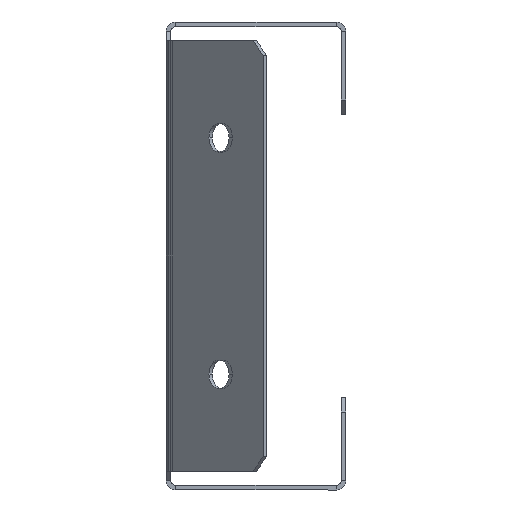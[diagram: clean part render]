
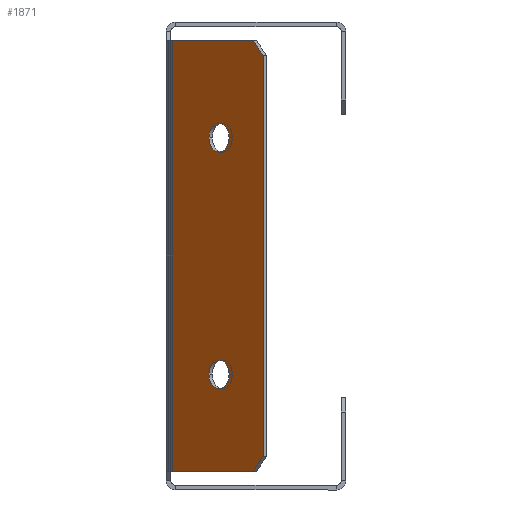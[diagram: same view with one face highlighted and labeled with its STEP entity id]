
A CAD part, left-side view. The second image highlights one B-rep face of the part: STEP entity #1871.
In plain terms, the highlighted planar face has unit normal (-0.707, 0.707, 0).
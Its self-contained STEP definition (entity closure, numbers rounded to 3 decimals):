
#15 = CARTESIAN_POINT ( 'NONE',  ( -263.879, -9.051, 25. ) ) ;
#38 = CARTESIAN_POINT ( 'NONE',  ( -255.121, -0.293, -45.5 ) ) ;
#93 = DIRECTION ( 'NONE',  ( -0.707, -0.707, 0. ) ) ;
#98 = ORIENTED_EDGE ( 'NONE', *, *, #2472, .F. ) ;
#134 = CARTESIAN_POINT ( 'NONE',  ( -263.879, -9.051, -25. ) ) ;
#153 = EDGE_CURVE ( 'NONE', #706, #1280, #590, .T. ) ;
#206 = VERTEX_POINT ( 'NONE', #856 ) ;
#220 = CARTESIAN_POINT ( 'NONE',  ( -255.414, -0.586, 45.5 ) ) ;
#221 = DIRECTION ( 'NONE',  ( 0., 0., -1. ) ) ;
#282 = ORIENTED_EDGE ( 'NONE', *, *, #769, .T. ) ;
#323 = EDGE_CURVE ( 'NONE', #206, #1034, #2785, .T. ) ;
#368 = CARTESIAN_POINT ( 'NONE',  ( -268.122, -13.294, -25. ) ) ;
#412 = VERTEX_POINT ( 'NONE', #15 ) ;
#427 = ORIENTED_EDGE ( 'NONE', *, *, #3005, .F. ) ;
#429 = CARTESIAN_POINT ( 'NONE',  ( -273.213, -18.385, -45.5 ) ) ;
#451 = PLANE ( 'NONE',  #563 ) ;
#481 = LINE ( 'NONE', #2005, #643 ) ;
#563 = AXIS2_PLACEMENT_3D ( 'NONE', #1767, #991, #2800 ) ;
#590 = LINE ( 'NONE', #38, #1710 ) ;
#639 = CARTESIAN_POINT ( 'NONE',  ( -273.213, -18.385, 45.5 ) ) ;
#643 = VECTOR ( 'NONE', #1246, 1000. ) ;
#655 = DIRECTION ( 'NONE',  ( -0.707, -0.707, 0. ) ) ;
#690 = VECTOR ( 'NONE', #1050, 1000. ) ;
#693 = FACE_BOUND ( 'NONE', #1749, .T. ) ;
#694 = CIRCLE ( 'NONE', #2836, 3. ) ;
#706 = VERTEX_POINT ( 'NONE', #429 ) ;
#739 = DIRECTION ( 'NONE',  ( -0.707, -0.707, 0. ) ) ;
#769 = EDGE_CURVE ( 'NONE', #206, #2186, #2290, .T. ) ;
#790 = VECTOR ( 'NONE', #221, 1000. ) ;
#826 = VECTOR ( 'NONE', #924, 1000. ) ;
#856 = CARTESIAN_POINT ( 'NONE',  ( -275.335, -20.506, 42.5 ) ) ;
#880 = VERTEX_POINT ( 'NONE', #368 ) ;
#898 = CARTESIAN_POINT ( 'NONE',  ( -266.001, -11.172, -25. ) ) ;
#920 = EDGE_CURVE ( 'NONE', #3182, #880, #694, .T. ) ;
#924 = DIRECTION ( 'NONE',  ( 0., 0., -1. ) ) ;
#942 = DIRECTION ( 'NONE',  ( -0.707, 0.707, 0. ) ) ;
#988 = CARTESIAN_POINT ( 'NONE',  ( -216.504, 38.324, 125.699 ) ) ;
#991 = DIRECTION ( 'NONE',  ( -0.707, 0.707, 0. ) ) ;
#1034 = VERTEX_POINT ( 'NONE', #2927 ) ;
#1050 = DIRECTION ( 'NONE',  ( 0.5, 0.5, 0.707 ) ) ;
#1117 = EDGE_CURVE ( 'NONE', #2819, #412, #2688, .T. ) ;
#1123 = DIRECTION ( 'NONE',  ( -0.707, -0.707, 0. ) ) ;
#1135 = CIRCLE ( 'NONE', #3042, 3. ) ;
#1170 = ORIENTED_EDGE ( 'NONE', *, *, #920, .F. ) ;
#1176 = EDGE_LOOP ( 'NONE', ( #1763, #98 ) ) ;
#1246 = DIRECTION ( 'NONE',  ( -0.5, -0.5, 0.707 ) ) ;
#1280 = VERTEX_POINT ( 'NONE', #2445 ) ;
#1428 = CARTESIAN_POINT ( 'NONE',  ( -266.001, -11.172, 25. ) ) ;
#1449 = CIRCLE ( 'NONE', #1893, 3. ) ;
#1536 = EDGE_CURVE ( 'NONE', #706, #1034, #481, .T. ) ;
#1553 = DIRECTION ( 'NONE',  ( 0.707, 0.707, 0. ) ) ;
#1584 = ORIENTED_EDGE ( 'NONE', *, *, #1536, .T. ) ;
#1641 = VECTOR ( 'NONE', #1123, 1000. ) ;
#1707 = ORIENTED_EDGE ( 'NONE', *, *, #2711, .T. ) ;
#1710 = VECTOR ( 'NONE', #1553, 1000. ) ;
#1749 = EDGE_LOOP ( 'NONE', ( #3078, #1170 ) ) ;
#1761 = EDGE_CURVE ( 'NONE', #880, #3182, #1449, .T. ) ;
#1763 = ORIENTED_EDGE ( 'NONE', *, *, #1117, .F. ) ;
#1767 = CARTESIAN_POINT ( 'NONE',  ( -127.621, 127.207, 0. ) ) ;
#1776 = ORIENTED_EDGE ( 'NONE', *, *, #323, .F. ) ;
#1871 = ADVANCED_FACE ( 'NONE', ( #3314, #693, #2787 ), #451, .T. ) ;
#1893 = AXIS2_PLACEMENT_3D ( 'NONE', #898, #1936, #93 ) ;
#1901 = CARTESIAN_POINT ( 'NONE',  ( -275.335, -20.506, 45.5 ) ) ;
#1936 = DIRECTION ( 'NONE',  ( -0.707, 0.707, 0. ) ) ;
#2005 = CARTESIAN_POINT ( 'NONE',  ( -216.504, 38.324, -125.699 ) ) ;
#2112 = LINE ( 'NONE', #1901, #1641 ) ;
#2169 = DIRECTION ( 'NONE',  ( -0.707, 0.707, 0. ) ) ;
#2186 = VERTEX_POINT ( 'NONE', #639 ) ;
#2201 = LINE ( 'NONE', #2713, #826 ) ;
#2290 = LINE ( 'NONE', #988, #690 ) ;
#2392 = VERTEX_POINT ( 'NONE', #220 ) ;
#2396 = DIRECTION ( 'NONE',  ( -0.707, -0.707, 0. ) ) ;
#2445 = CARTESIAN_POINT ( 'NONE',  ( -255.414, -0.586, -45.5 ) ) ;
#2472 = EDGE_CURVE ( 'NONE', #412, #2819, #1135, .T. ) ;
#2528 = AXIS2_PLACEMENT_3D ( 'NONE', #1428, #942, #655 ) ;
#2663 = ORIENTED_EDGE ( 'NONE', *, *, #153, .F. ) ;
#2688 = CIRCLE ( 'NONE', #2528, 3. ) ;
#2711 = EDGE_CURVE ( 'NONE', #2392, #1280, #2201, .T. ) ;
#2713 = CARTESIAN_POINT ( 'NONE',  ( -255.414, -0.586, 0. ) ) ;
#2785 = LINE ( 'NONE', #3311, #790 ) ;
#2787 = FACE_OUTER_BOUND ( 'NONE', #3051, .T. ) ;
#2800 = DIRECTION ( 'NONE',  ( -0.707, -0.707, 0. ) ) ;
#2819 = VERTEX_POINT ( 'NONE', #3305 ) ;
#2821 = DIRECTION ( 'NONE',  ( -0.707, 0.707, 0. ) ) ;
#2836 = AXIS2_PLACEMENT_3D ( 'NONE', #2946, #2169, #2396 ) ;
#2927 = CARTESIAN_POINT ( 'NONE',  ( -275.335, -20.506, -42.5 ) ) ;
#2946 = CARTESIAN_POINT ( 'NONE',  ( -266.001, -11.172, -25. ) ) ;
#3005 = EDGE_CURVE ( 'NONE', #2392, #2186, #2112, .T. ) ;
#3042 = AXIS2_PLACEMENT_3D ( 'NONE', #3052, #2821, #739 ) ;
#3051 = EDGE_LOOP ( 'NONE', ( #1776, #282, #427, #1707, #2663, #1584 ) ) ;
#3052 = CARTESIAN_POINT ( 'NONE',  ( -266.001, -11.172, 25. ) ) ;
#3078 = ORIENTED_EDGE ( 'NONE', *, *, #1761, .F. ) ;
#3182 = VERTEX_POINT ( 'NONE', #134 ) ;
#3305 = CARTESIAN_POINT ( 'NONE',  ( -268.122, -13.294, 25. ) ) ;
#3311 = CARTESIAN_POINT ( 'NONE',  ( -275.335, -20.506, -45.5 ) ) ;
#3314 = FACE_BOUND ( 'NONE', #1176, .T. ) ;
